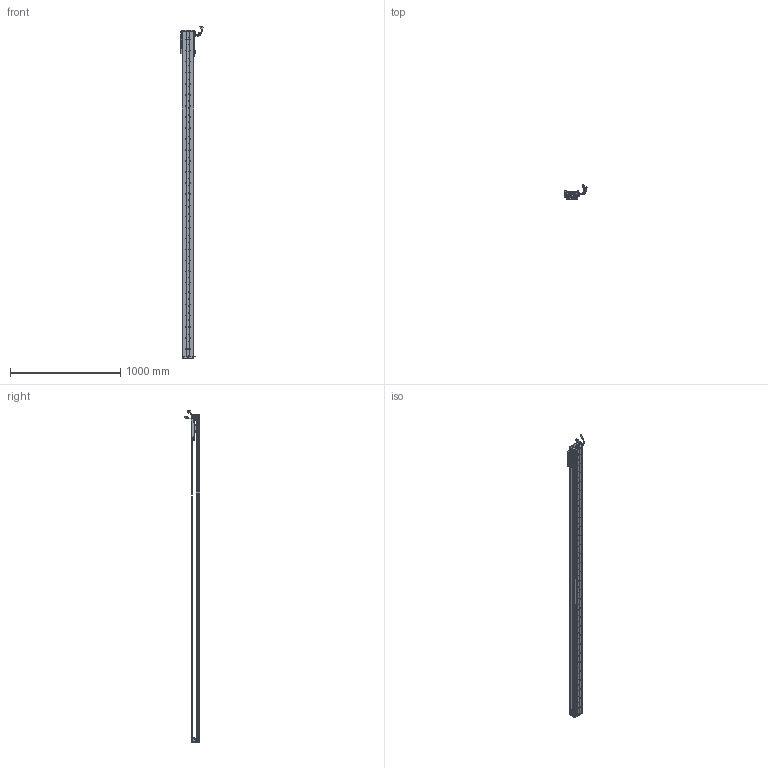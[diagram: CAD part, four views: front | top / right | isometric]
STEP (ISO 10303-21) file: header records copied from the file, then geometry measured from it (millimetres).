
FILE_DESCRIPTION (( 'STEP AP203' ), '1' );
FILE_NAME ('Z2-RY100D-1-L500-B-K.SLDASM_2700.step', '2021-05-17T02:38:18', ( '盈信电脑' ), ( '东莞市道滘镇水果街19号' ), 'SwSTEP 2.0', 'SolidWorks 2016', '' );
FILE_SCHEMA (( 'CONFIG_CONTROL_DESIGN' ));
Length unit declared in the file: millimetre
Products named in the file (36): Z-100詩湍傷裔啣; 140雄赽晤鎢ん堤盄; SCREW-M1.6-3; PBU_SHEET; LABEL; SCREW-M1.6-2; Z2-RY100-L500詩湍90mm遵_2700; COVER; SCREW-M1.6; 080黍杅芛假蚾釱21遴; 覜茼ん672; LABEL-Part-1; PSLH080_PSLF2; SCREW-M1.7; Z2-RY100铝滑块（21款）; HARNESS-Part-1; Z-RY100D詩湍奻揤裔; SCALE; 140蚥薯蝶輸; HARNESS; Z-RY100D詩湍狟揤裔; 榋妏寠巭燃_暯_M2_2; HOLDER0; SCREW-M1.7-1; SEAL-Part-1; SEAL; COVER-Part-1; 100-Z-臏賑輸盄裔(21遴); Z2-RY100D-500-倰第菁釱_2700; Z2-RY100D-1-L500-B-K.SLDASM_2700; SHIELDPLATE; SCALE-Part-2; SCALE-Part-1; HARNESS-Part-2; Z-RY100D覜茼んえ; SCREW-M1.6-1
Assembly tree (43 placements, depth 4):
  Z2-RY100D-1-L500-B-K.SLDASM_2700
    Z2-RY100D-500-倰第菁釱_2700
    Z2-RY100铝滑块（21款）
    PSLH080_PSLF2
      SCALE
        SCALE-Part-1
        SCALE-Part-2
      HARNESS
        HARNESS-Part-1
        HARNESS-Part-2
      LABEL
        LABEL-Part-1
      COVER
        COVER-Part-1
      SEAL
        SEAL-Part-1
      榋妏寠巭燃_暯_M2_2
      SHIELDPLATE
      SCREW-M1.7
      SCREW-M1.7-1
      PBU_SHEET
      SCREW-M1.6
      SCREW-M1.6-1
      SCREW-M1.6-2
      SCREW-M1.6-3
      HOLDER0
    080黍杅芛假蚾釱21遴
    Z-100詩湍傷裔啣  x2
    140蚥薯蝶輸  x2
    覜茼ん672  x3
    Z-RY100D覜茼んえ  x3
    100-Z-臏賑輸盄裔(21遴)
    140雄赽晤鎢ん堤盄
    Z2-RY100-L500詩湍90mm遵_2700
    Z-RY100D詩湍狟揤裔  x2
    Z-RY100D詩湍奻揤裔  x2
Bounding box: 205.79 x 136.11 x 3005.43 mm (x, y, z)
Volume: 5330839.3 mm3; surface area: 2121027.7 mm2
Topology: 38 solids, 38 shells, 3068 faces, 8433 edges, 5396 vertices
Faces by surface type: cylinder 1534, plane 1194, cone 218, torus 69, bspline 53
Entity records: 89765 total; most frequent: CARTESIAN_POINT 18808, DIRECTION 14497, ORIENTED_EDGE 13762, EDGE_CURVE 6881, AXIS2_PLACEMENT_3D 5465, VERTEX_POINT 4464, VECTOR 3567, LINE 3567
